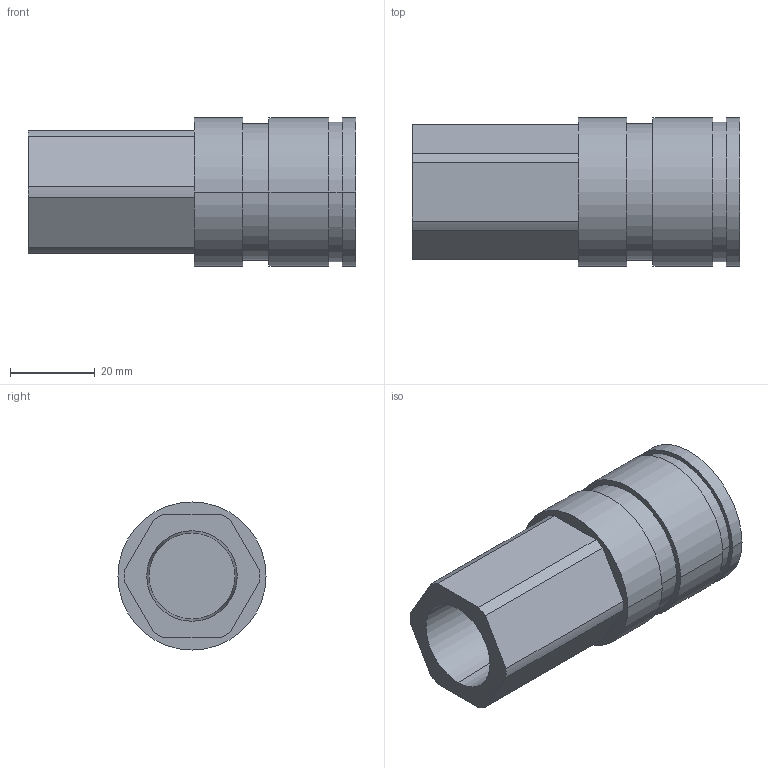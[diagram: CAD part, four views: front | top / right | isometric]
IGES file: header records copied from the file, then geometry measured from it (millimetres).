
Global section: file name: No Iges File Name specified; native system: Autodesk Inventor 2009; preprocessor: AutoDesk Inventor Iges Exporter R2009; author: y-shimohigashi; date: 20080701.112905; units: millimetre
Bounding box: 77.4 x 35 x 35 mm (x, y, z)
Volume: 46066.2 mm3; surface area: 13532.4 mm2
Topology: 1 solids, 1 shells, 35 faces, 78 edges, 52 vertices
Faces by surface type: cylinder 16, plane 15, revolution 4
